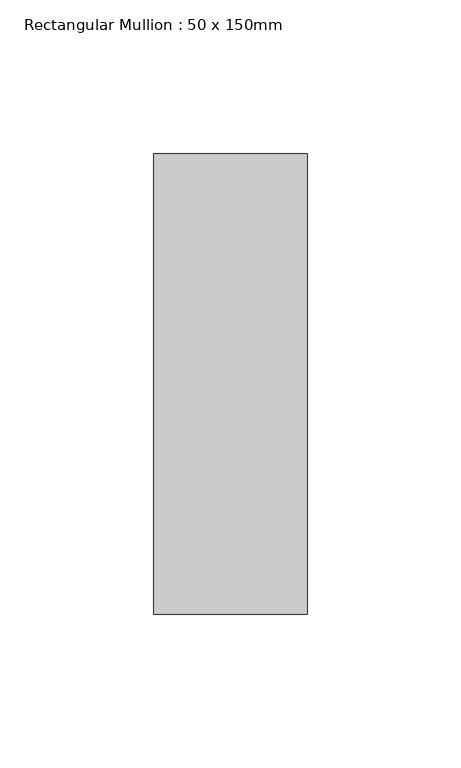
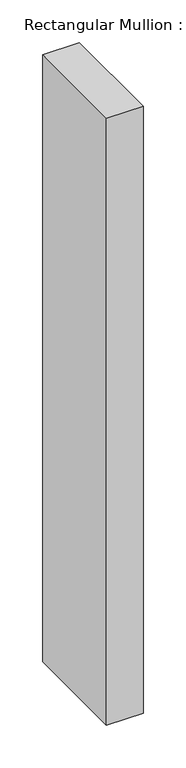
"""IFC4 building model written with IfcOpenShell, lengths in millimetres: member geometry, Rectangular Mullion : 50 x 150mm."""

from ifc_helpers import new_model, si_unit, frame, origin, place, context, project, spatial, polyline, outline, extrude, source, transform, mapped, element, save


def rectangular_mullion_50_x_150mm_73811cb7(model_context):
    return source(origin(), model_context, "Body", "SweptSolid", [
        extrude(outline(polyline([(25.0, 75.0), (25.0, -75.0), (-25.0, -75.0), (-25.0, 75.0), (25.0, 75.0)])), frame((0.0, 0.0, -869.9960441), z_axis=(0.0, 0.0, 1.0), x_axis=(1.0, 0.0, 0.0)), (0.0, 0.0, 1.0), 869.9960441),
    ])


if __name__ == "__main__":
    model = new_model("IFC4")
    model_context = context("Model", 3, world=origin())
    ifc_project = project(units=[si_unit("LENGTHUNIT", "METRE", prefix="MILLI")], contexts=[model_context])
    site = spatial("IfcSite", under=ifc_project)
    building = spatial("IfcBuilding", under=site)
    placement = place(None, origin())
    rectangular_mullion_50_x_150mm_shape = rectangular_mullion_50_x_150mm_73811cb7(model_context)
    element("IfcMember", 1, ObjectType="Rectangular Mullion : 50 x 150mm", at=placement, inside=building, context=model_context, shape_type="MappedRepresentation", body=[
        mapped(rectangular_mullion_50_x_150mm_shape, transform((0.0, 0.0, 0.0), x_axis=(1.0, 0.0, 0.0), y_axis=(0.0, 1.0, 0.0), z_axis=(0.0, 0.0, 1.0))),
    ])
    save(model, "model.ifc")
